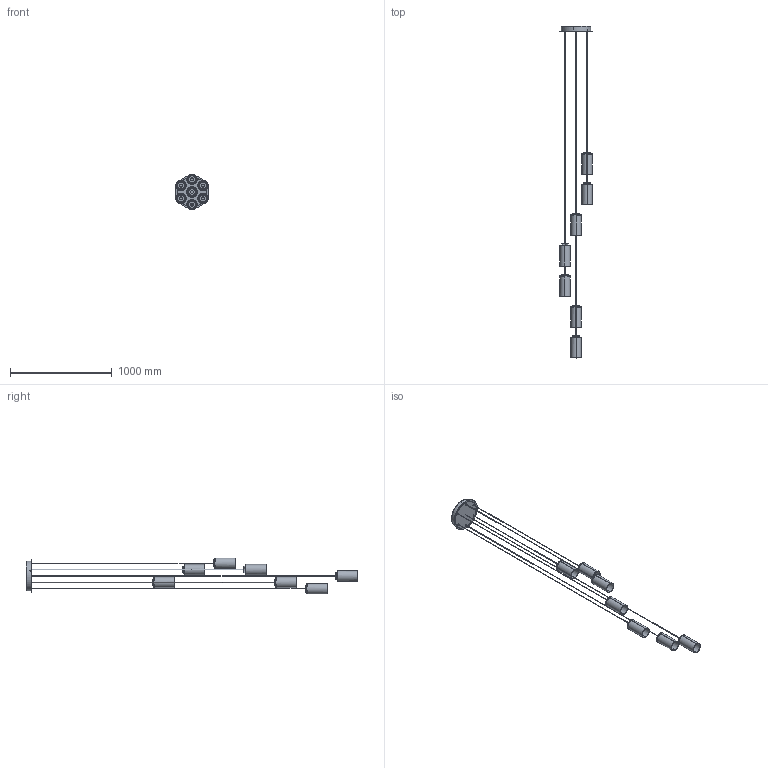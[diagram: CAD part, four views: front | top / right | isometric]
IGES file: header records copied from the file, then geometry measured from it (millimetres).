
Start section: SolidWorks IGES file using NURBS representation for surfaces
Global section: file name: C:\Users\aitor.torredeflot\Desktop\Cascada 12\3D WEB\Cascada 7\cascada 7 - tirabuzon.IGS; native system: SolidWorks 2016; preprocessor: SolidWorks 2016; author: aitor.torredeflot; date: 170712.160347; units: millimetre
Bounding box: 320 x 3254.7 x 351 mm (x, y, z)
Surface area: 1629394.5 mm2 (no closed solid volume)
Topology: 0 solids, 0 shells, 1984 faces, 16480 edges, 16480 vertices
Faces by surface type: bspline 1984
